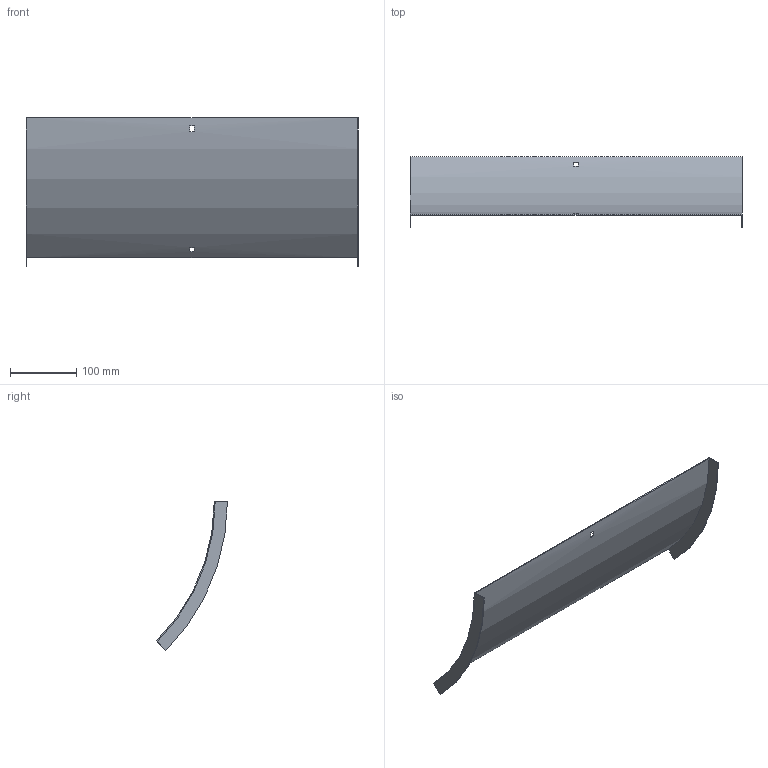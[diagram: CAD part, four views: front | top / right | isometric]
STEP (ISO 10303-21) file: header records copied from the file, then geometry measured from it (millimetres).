
FILE_DESCRIPTION (( 'STEP AP214' ), '1' );
FILE_NAME ('B2X31N3R500X.step', '2025-03-20T09:42:16', ( '' ), ( '' ), 'SwSTEP 2.0', 'SolidWorks 2023', '' );
FILE_SCHEMA (( 'AUTOMOTIVE_DESIGN' ));
Length unit declared in the file: millimetre
Products named in the file (1): B2X31N3R500X
Bounding box: 503 x 107.43 x 225.21 mm (x, y, z)
Volume: 190634.7 mm3; surface area: 256641.5 mm2
Topology: 1 solids, 1 shells, 18 faces, 48 edges, 32 vertices
Faces by surface type: plane 14, cylinder 4
Entity records: 599 total; most frequent: DIRECTION 102, CARTESIAN_POINT 99, ORIENTED_EDGE 96, EDGE_CURVE 48, AXIS2_PLACEMENT_3D 35, VERTEX_POINT 32, VECTOR 32, LINE 32
